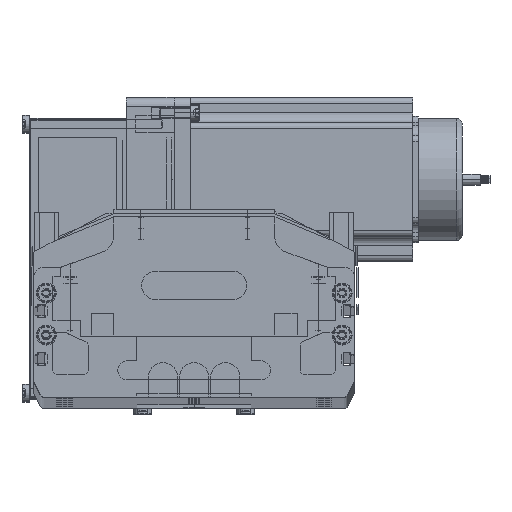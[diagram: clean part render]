
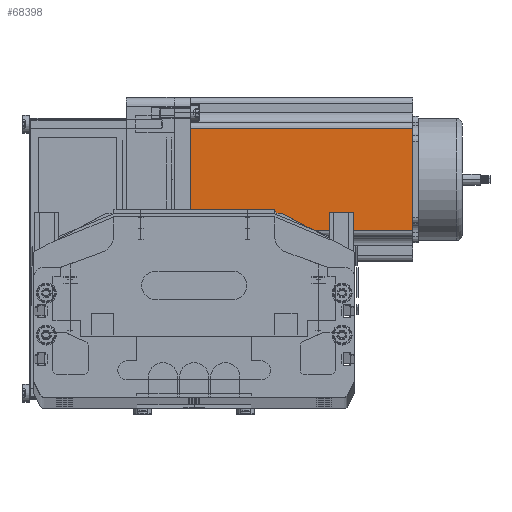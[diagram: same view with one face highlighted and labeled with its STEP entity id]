
A CAD part, top view. The second image highlights one B-rep face of the part: STEP entity #68398.
In plain terms, the highlighted planar face has unit normal (0, 0, 1) as drawn and (0, -1, 0) by its records, which use the part's own axes.
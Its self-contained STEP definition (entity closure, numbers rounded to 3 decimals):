
#31193 = CARTESIAN_POINT ( 'NONE',  ( 16.16, 0., 0. ) ) ;
#32874 = CARTESIAN_POINT ( 'NONE',  ( 0., 0., 0. ) ) ;
#32875 = LINE ( 'NONE', #32874, #32887 ) ;
#32883 = DIRECTION ( 'NONE',  ( 0., 0., 1. ) ) ;
#32886 = DIRECTION ( 'NONE',  ( 1., 0., 0. ) ) ;
#32887 = VECTOR ( 'NONE', #32886, 1000. ) ;
#32891 = CARTESIAN_POINT ( 'NONE',  ( 0., 0., 116.5 ) ) ;
#33276 = AXIS2_PLACEMENT_3D ( 'NONE', #32891, #33302, #32883 ) ;
#33302 = DIRECTION ( 'NONE',  ( 0., 1., 0. ) ) ;
#33314 = PLANE ( 'NONE',  #33276 ) ;
#33327 = FACE_OUTER_BOUND ( 'NONE', #68327, .T. ) ;
#47485 = CARTESIAN_POINT ( 'NONE',  ( 16.16, 0., 116.5 ) ) ;
#47554 = DIRECTION ( 'NONE',  ( 1., 0., 0. ) ) ;
#47556 = VECTOR ( 'NONE', #47554, 1000. ) ;
#47557 = CARTESIAN_POINT ( 'NONE',  ( 0., 0., 116.5 ) ) ;
#47559 = LINE ( 'NONE', #47557, #47556 ) ;
#47653 = CARTESIAN_POINT ( 'NONE',  ( 69.74, 0., 0. ) ) ;
#47695 = CARTESIAN_POINT ( 'NONE',  ( 69.74, 0., 116.5 ) ) ;
#47698 = DIRECTION ( 'NONE',  ( 0., 0., 1. ) ) ;
#47699 = VECTOR ( 'NONE', #47698, 1000. ) ;
#47701 = CARTESIAN_POINT ( 'NONE',  ( 69.74, 0., 116.5 ) ) ;
#47704 = LINE ( 'NONE', #47701, #47699 ) ;
#47753 = DIRECTION ( 'NONE',  ( 0., 0., -1. ) ) ;
#47897 = LINE ( 'NONE', #48007, #48005 ) ;
#48005 = VECTOR ( 'NONE', #47753, 1000. ) ;
#48007 = CARTESIAN_POINT ( 'NONE',  ( 16.16, 0., 116.5 ) ) ;
#68327 = EDGE_LOOP ( 'NONE', ( #68399, #69000, #69009, #69013 ) ) ;
#68337 = VERTEX_POINT ( 'NONE', #31193 ) ;
#68398 = ADVANCED_FACE ( 'NONE', ( #33327 ), #33314, .F. ) ;
#68399 = ORIENTED_EDGE ( 'NONE', *, *, #68400, .T. ) ;
#68400 = EDGE_CURVE ( 'NONE', #68337, #69003, #32875, .T. ) ;
#68999 = VERTEX_POINT ( 'NONE', #47485 ) ;
#69000 = ORIENTED_EDGE ( 'NONE', *, *, #69002, .T. ) ;
#69001 = EDGE_CURVE ( 'NONE', #68999, #69006, #47559, .T. ) ;
#69002 = EDGE_CURVE ( 'NONE', #69003, #69006, #47704, .T. ) ;
#69003 = VERTEX_POINT ( 'NONE', #47653 ) ;
#69006 = VERTEX_POINT ( 'NONE', #47695 ) ;
#69009 = ORIENTED_EDGE ( 'NONE', *, *, #69001, .F. ) ;
#69010 = EDGE_CURVE ( 'NONE', #68999, #68337, #47897, .T. ) ;
#69013 = ORIENTED_EDGE ( 'NONE', *, *, #69010, .T. ) ;
